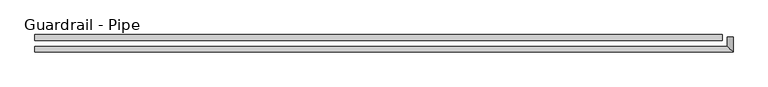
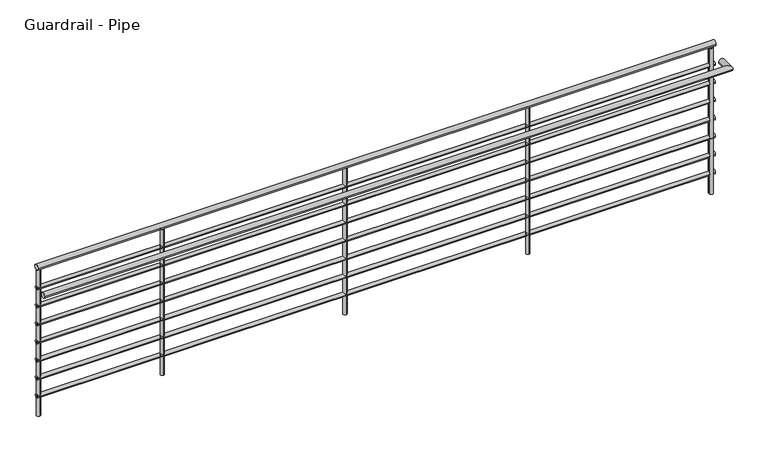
"""IFC4 building model written with IfcOpenShell, lengths in millimetres: railing geometry, Guardrail - Pipe."""

from ifc_helpers import new_model, si_unit, point, frame, frame_2d, origin, place, context, project, spatial, circle_curve, ellipse_curve, trimmed, segment, composite_curve, outline, extrude, source, transform, mapped, element, save
from ifc_brep_helpers import plane_surface, cylinder_surface, advanced_brep


def guardrail_pipe_c0ca29c8(model_context):
    return source(origin(), model_context, "Body", "SolidModel", [
        advanced_brep(
        [(-1587.5862718, 28918.0713154, 4705.35), (-1587.5862718, 28956.1713154, 4705.35), (-6108.7862718, 28918.0713154, 4705.35), (-6108.7862718, 28956.1713154, 4705.35)],
        [
            (0, 1, circle_curve(frame((-1587.5862718, 28937.1213154, 4705.35), z_axis=(1.0, 0.0, 0.0), x_axis=(0.0, 1.0, 0.0)), 19.05)),
            (1, 0, circle_curve(frame((-1587.5862718, 28937.1213154, 4705.35), z_axis=(1.0, 0.0, 0.0), x_axis=(0.0, 1.0, 0.0)), 19.05)),
            (2, 3, circle_curve(frame((-6108.7862718, 28937.1213154, 4705.35), z_axis=(-1.0, 0.0, 0.0), x_axis=(0.0, 1.0, 0.0)), 19.05)),
            (3, 2, circle_curve(frame((-6108.7862718, 28937.1213154, 4705.35), z_axis=(-1.0, 0.0, 0.0), x_axis=(0.0, 1.0, 0.0)), 19.05)),
            (0, 2),
            (3, 1),
        ],
        [
            plane_surface(frame((-1587.5862718, 28937.1213154, 4724.4), z_axis=(1.0, 0.0, 0.0), x_axis=(0.0, -1.0, 0.0))),
            plane_surface(frame((-6108.7862718, 28937.1213154, 4724.4), z_axis=(-1.0, 0.0, 0.0), x_axis=(0.0, -1.0, 0.0))),
            cylinder_surface(frame((-1587.5862718, 28937.1213154, 4705.35), z_axis=(1.0, 0.0, 0.0), x_axis=(0.0, 1.0, 0.0)), 19.05),
        ],
        [
            (0, [[1, 2]]),
            (1, [[3, 4]]),
            (2, [[-1, 5, -4, 6]]),
            (2, [[-2, -6, -3, -5]]),
        ],
    ),
        advanced_brep(
        [(-1587.5862718, 28924.4213154, 4559.3), (-1587.5862718, 28949.8213154, 4559.3), (-6108.7862718, 28924.4213154, 4559.3), (-6108.7862718, 28949.8213154, 4559.3)],
        [
            (0, 1, circle_curve(frame((-1587.5862718, 28937.1213154, 4559.3), z_axis=(1.0, 0.0, 0.0), x_axis=(0.0, 1.0, 0.0)), 12.7)),
            (1, 0, circle_curve(frame((-1587.5862718, 28937.1213154, 4559.3), z_axis=(1.0, 0.0, 0.0), x_axis=(0.0, 1.0, 0.0)), 12.7)),
            (2, 3, circle_curve(frame((-6108.7862718, 28937.1213154, 4559.3), z_axis=(-1.0, 0.0, 0.0), x_axis=(0.0, 1.0, 0.0)), 12.7)),
            (3, 2, circle_curve(frame((-6108.7862718, 28937.1213154, 4559.3), z_axis=(-1.0, 0.0, 0.0), x_axis=(0.0, 1.0, 0.0)), 12.7)),
            (0, 2),
            (3, 1),
        ],
        [
            plane_surface(frame((-1587.5862718, 28937.1213154, 4572.0), z_axis=(1.0, 0.0, 0.0), x_axis=(0.0, -1.0, 0.0))),
            plane_surface(frame((-6108.7862718, 28937.1213154, 4572.0), z_axis=(-1.0, 0.0, 0.0), x_axis=(0.0, -1.0, 0.0))),
            cylinder_surface(frame((-1587.5862718, 28937.1213154, 4559.3), z_axis=(1.0, 0.0, 0.0), x_axis=(0.0, 1.0, 0.0)), 12.7),
        ],
        [
            (0, [[1, 2]]),
            (1, [[3, 4]]),
            (2, [[-1, 5, -4, 6]]),
            (2, [[-2, -6, -3, -5]]),
        ],
    ),
        advanced_brep(
        [(-1517.7362718, 28942.3977925, 4552.95), (-1555.8362718, 28942.3977925, 4552.95), (-1517.7362718, 28841.8713154, 4552.95), (-1555.8362718, 28879.9713154, 4552.95), (-6108.7862718, 28841.8713154, 4552.95), (-6108.7862718, 28879.9713154, 4552.95)],
        [
            (0, 1, circle_curve(frame((-1536.7862718, 28942.3977925, 4552.95), z_axis=(0.0, 1.0, 0.0), x_axis=(-1.0, 0.0, 0.0)), 19.05)),
            (1, 0, circle_curve(frame((-1536.7862718, 28942.3977925, 4552.95), z_axis=(0.0, 1.0, 0.0), x_axis=(-1.0, 0.0, 0.0)), 19.05)),
            (0, 2),
            (2, 3, ellipse_curve(frame((-1536.7862718, 28860.9213154, 4552.95), z_axis=(0.7071067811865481, 0.7071067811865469, 0.0), x_axis=(-0.7071067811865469, 0.7071067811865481, 0.0)), 26.9407684, 19.05)),
            (3, 1),
            (3, 2, ellipse_curve(frame((-1536.7862718, 28860.9213154, 4552.95), z_axis=(0.7071067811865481, 0.7071067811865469, 0.0), x_axis=(-0.7071067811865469, 0.7071067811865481, 0.0)), 26.9407684, 19.05)),
            (4, 5, circle_curve(frame((-6108.7862718, 28860.9213154, 4552.95), z_axis=(-1.0, 0.0, 0.0), x_axis=(0.0, 1.0, 0.0)), 19.05)),
            (5, 4, circle_curve(frame((-6108.7862718, 28860.9213154, 4552.95), z_axis=(-1.0, 0.0, 0.0), x_axis=(0.0, 1.0, 0.0)), 19.05)),
            (2, 4),
            (5, 3),
        ],
        [
            plane_surface(frame((-1536.7862718, 28942.3977925, 4572.0), z_axis=(0.0, 1.0, 0.0), x_axis=(0.0, 0.0, -1.0))),
            cylinder_surface(frame((-1536.7862718, 28942.3977925, 4552.95), z_axis=(0.0, 1.0, 0.0), x_axis=(-1.0, 0.0, 0.0)), 19.05),
            plane_surface(frame((-6108.7862718, 28860.9213154, 4572.0), z_axis=(-1.0, 0.0, 0.0), x_axis=(0.0, -1.0, 0.0))),
            cylinder_surface(frame((-1536.7862718, 28860.9213154, 4552.95), z_axis=(1.0, 0.0, 0.0), x_axis=(0.0, 1.0, 0.0)), 19.05),
        ],
        [
            (0, [[1, 2]]),
            (1, [[-1, 3, 4, 5]]),
            (1, [[-2, -5, 6, -3]]),
            (2, [[7, 8]]),
            (3, [[-4, 9, -8, 10]]),
            (3, [[-6, -10, -7, -9]]),
        ],
    ),
        advanced_brep(
        [(-1587.5862718, 28924.4213154, 4432.3), (-1587.5862718, 28949.8213154, 4432.3), (-6108.7862718, 28924.4213154, 4432.3), (-6108.7862718, 28949.8213154, 4432.3)],
        [
            (0, 1, circle_curve(frame((-1587.5862718, 28937.1213154, 4432.3), z_axis=(1.0, 0.0, 0.0), x_axis=(0.0, 1.0, 0.0)), 12.7)),
            (1, 0, circle_curve(frame((-1587.5862718, 28937.1213154, 4432.3), z_axis=(1.0, 0.0, 0.0), x_axis=(0.0, 1.0, 0.0)), 12.7)),
            (2, 3, circle_curve(frame((-6108.7862718, 28937.1213154, 4432.3), z_axis=(-1.0, 0.0, 0.0), x_axis=(0.0, 1.0, 0.0)), 12.7)),
            (3, 2, circle_curve(frame((-6108.7862718, 28937.1213154, 4432.3), z_axis=(-1.0, 0.0, 0.0), x_axis=(0.0, 1.0, 0.0)), 12.7)),
            (0, 2),
            (3, 1),
        ],
        [
            plane_surface(frame((-1587.5862718, 28937.1213154, 4445.0), z_axis=(1.0, 0.0, 0.0), x_axis=(0.0, -1.0, 0.0))),
            plane_surface(frame((-6108.7862718, 28937.1213154, 4445.0), z_axis=(-1.0, 0.0, 0.0), x_axis=(0.0, -1.0, 0.0))),
            cylinder_surface(frame((-1587.5862718, 28937.1213154, 4432.3), z_axis=(1.0, 0.0, 0.0), x_axis=(0.0, 1.0, 0.0)), 12.7),
        ],
        [
            (0, [[1, 2]]),
            (1, [[3, 4]]),
            (2, [[-1, 5, -4, 6]]),
            (2, [[-2, -6, -3, -5]]),
        ],
    ),
        advanced_brep(
        [(-1587.5862718, 28924.4213154, 4305.3), (-1587.5862718, 28949.8213154, 4305.3), (-6108.7862718, 28924.4213154, 4305.3), (-6108.7862718, 28949.8213154, 4305.3)],
        [
            (0, 1, circle_curve(frame((-1587.5862718, 28937.1213154, 4305.3), z_axis=(1.0, 0.0, 0.0), x_axis=(0.0, 1.0, 0.0)), 12.7)),
            (1, 0, circle_curve(frame((-1587.5862718, 28937.1213154, 4305.3), z_axis=(1.0, 0.0, 0.0), x_axis=(0.0, 1.0, 0.0)), 12.7)),
            (2, 3, circle_curve(frame((-6108.7862718, 28937.1213154, 4305.3), z_axis=(-1.0, 0.0, 0.0), x_axis=(0.0, 1.0, 0.0)), 12.7)),
            (3, 2, circle_curve(frame((-6108.7862718, 28937.1213154, 4305.3), z_axis=(-1.0, 0.0, 0.0), x_axis=(0.0, 1.0, 0.0)), 12.7)),
            (0, 2),
            (3, 1),
        ],
        [
            plane_surface(frame((-1587.5862718, 28937.1213154, 4318.0), z_axis=(1.0, 0.0, 0.0), x_axis=(0.0, -1.0, 0.0))),
            plane_surface(frame((-6108.7862718, 28937.1213154, 4318.0), z_axis=(-1.0, 0.0, 0.0), x_axis=(0.0, -1.0, 0.0))),
            cylinder_surface(frame((-1587.5862718, 28937.1213154, 4305.3), z_axis=(1.0, 0.0, 0.0), x_axis=(0.0, 1.0, 0.0)), 12.7),
        ],
        [
            (0, [[1, 2]]),
            (1, [[3, 4]]),
            (2, [[-1, 5, -4, 6]]),
            (2, [[-2, -6, -3, -5]]),
        ],
    ),
        advanced_brep(
        [(-1587.5862718, 28924.4213154, 4178.3), (-1587.5862718, 28949.8213154, 4178.3), (-6108.7862718, 28924.4213154, 4178.3), (-6108.7862718, 28949.8213154, 4178.3)],
        [
            (0, 1, circle_curve(frame((-1587.5862718, 28937.1213154, 4178.3), z_axis=(1.0, 0.0, 0.0), x_axis=(0.0, 1.0, 0.0)), 12.7)),
            (1, 0, circle_curve(frame((-1587.5862718, 28937.1213154, 4178.3), z_axis=(1.0, 0.0, 0.0), x_axis=(0.0, 1.0, 0.0)), 12.7)),
            (2, 3, circle_curve(frame((-6108.7862718, 28937.1213154, 4178.3), z_axis=(-1.0, 0.0, 0.0), x_axis=(0.0, 1.0, 0.0)), 12.7)),
            (3, 2, circle_curve(frame((-6108.7862718, 28937.1213154, 4178.3), z_axis=(-1.0, 0.0, 0.0), x_axis=(0.0, 1.0, 0.0)), 12.7)),
            (0, 2),
            (3, 1),
        ],
        [
            plane_surface(frame((-1587.5862718, 28937.1213154, 4191.0), z_axis=(1.0, 0.0, 0.0), x_axis=(0.0, -1.0, 0.0))),
            plane_surface(frame((-6108.7862718, 28937.1213154, 4191.0), z_axis=(-1.0, 0.0, 0.0), x_axis=(0.0, -1.0, 0.0))),
            cylinder_surface(frame((-1587.5862718, 28937.1213154, 4178.3), z_axis=(1.0, 0.0, 0.0), x_axis=(0.0, 1.0, 0.0)), 12.7),
        ],
        [
            (0, [[1, 2]]),
            (1, [[3, 4]]),
            (2, [[-1, 5, -4, 6]]),
            (2, [[-2, -6, -3, -5]]),
        ],
    ),
        advanced_brep(
        [(-1587.5862718, 28924.4213154, 4051.3), (-1587.5862718, 28949.8213154, 4051.3), (-6108.7862718, 28924.4213154, 4051.3), (-6108.7862718, 28949.8213154, 4051.3)],
        [
            (0, 1, circle_curve(frame((-1587.5862718, 28937.1213154, 4051.3), z_axis=(1.0, 0.0, 0.0), x_axis=(0.0, 1.0, 0.0)), 12.7)),
            (1, 0, circle_curve(frame((-1587.5862718, 28937.1213154, 4051.3), z_axis=(1.0, 0.0, 0.0), x_axis=(0.0, 1.0, 0.0)), 12.7)),
            (2, 3, circle_curve(frame((-6108.7862718, 28937.1213154, 4051.3), z_axis=(-1.0, 0.0, 0.0), x_axis=(0.0, 1.0, 0.0)), 12.7)),
            (3, 2, circle_curve(frame((-6108.7862718, 28937.1213154, 4051.3), z_axis=(-1.0, 0.0, 0.0), x_axis=(0.0, 1.0, 0.0)), 12.7)),
            (0, 2),
            (3, 1),
        ],
        [
            plane_surface(frame((-1587.5862718, 28937.1213154, 4064.0), z_axis=(1.0, 0.0, 0.0), x_axis=(0.0, -1.0, 0.0))),
            plane_surface(frame((-6108.7862718, 28937.1213154, 4064.0), z_axis=(-1.0, 0.0, 0.0), x_axis=(0.0, -1.0, 0.0))),
            cylinder_surface(frame((-1587.5862718, 28937.1213154, 4051.3), z_axis=(1.0, 0.0, 0.0), x_axis=(0.0, 1.0, 0.0)), 12.7),
        ],
        [
            (0, [[1, 2]]),
            (1, [[3, 4]]),
            (2, [[-1, 5, -4, 6]]),
            (2, [[-2, -6, -3, -5]]),
        ],
    ),
        advanced_brep(
        [(-1587.5862718, 28924.4213154, 3924.3), (-1587.5862718, 28949.8213154, 3924.3), (-6108.7862718, 28924.4213154, 3924.3), (-6108.7862718, 28949.8213154, 3924.3)],
        [
            (0, 1, circle_curve(frame((-1587.5862718, 28937.1213154, 3924.3), z_axis=(1.0, 0.0, 0.0), x_axis=(0.0, 1.0, 0.0)), 12.7)),
            (1, 0, circle_curve(frame((-1587.5862718, 28937.1213154, 3924.3), z_axis=(1.0, 0.0, 0.0), x_axis=(0.0, 1.0, 0.0)), 12.7)),
            (2, 3, circle_curve(frame((-6108.7862718, 28937.1213154, 3924.3), z_axis=(-1.0, 0.0, 0.0), x_axis=(0.0, 1.0, 0.0)), 12.7)),
            (3, 2, circle_curve(frame((-6108.7862718, 28937.1213154, 3924.3), z_axis=(-1.0, 0.0, 0.0), x_axis=(0.0, 1.0, 0.0)), 12.7)),
            (0, 2),
            (3, 1),
        ],
        [
            plane_surface(frame((-1587.5862718, 28937.1213154, 3937.0), z_axis=(1.0, 0.0, 0.0), x_axis=(0.0, -1.0, 0.0))),
            plane_surface(frame((-6108.7862718, 28937.1213154, 3937.0), z_axis=(-1.0, 0.0, 0.0), x_axis=(0.0, -1.0, 0.0))),
            cylinder_surface(frame((-1587.5862718, 28937.1213154, 3924.3), z_axis=(1.0, 0.0, 0.0), x_axis=(0.0, 1.0, 0.0)), 12.7),
        ],
        [
            (0, [[1, 2]]),
            (1, [[3, 4]]),
            (2, [[-1, 5, -4, 6]]),
            (2, [[-2, -6, -3, -5]]),
        ],
    ),
        advanced_brep(
        [(-1587.5862718, 28924.4213154, 3797.3), (-1587.5862718, 28949.8213154, 3797.3), (-6108.7862718, 28924.4213154, 3797.3), (-6108.7862718, 28949.8213154, 3797.3)],
        [
            (0, 1, circle_curve(frame((-1587.5862718, 28937.1213154, 3797.3), z_axis=(1.0, 0.0, 0.0), x_axis=(0.0, 1.0, 0.0)), 12.7)),
            (1, 0, circle_curve(frame((-1587.5862718, 28937.1213154, 3797.3), z_axis=(1.0, 0.0, 0.0), x_axis=(0.0, 1.0, 0.0)), 12.7)),
            (2, 3, circle_curve(frame((-6108.7862718, 28937.1213154, 3797.3), z_axis=(-1.0, 0.0, 0.0), x_axis=(0.0, 1.0, 0.0)), 12.7)),
            (3, 2, circle_curve(frame((-6108.7862718, 28937.1213154, 3797.3), z_axis=(-1.0, 0.0, 0.0), x_axis=(0.0, 1.0, 0.0)), 12.7)),
            (0, 2),
            (3, 1),
        ],
        [
            plane_surface(frame((-1587.5862718, 28937.1213154, 3810.0), z_axis=(1.0, 0.0, 0.0), x_axis=(0.0, -1.0, 0.0))),
            plane_surface(frame((-6108.7862718, 28937.1213154, 3810.0), z_axis=(-1.0, 0.0, 0.0), x_axis=(0.0, -1.0, 0.0))),
            cylinder_surface(frame((-1587.5862718, 28937.1213154, 3797.3), z_axis=(1.0, 0.0, 0.0), x_axis=(0.0, 1.0, 0.0)), 12.7),
        ],
        [
            (0, [[1, 2]]),
            (1, [[3, 4]]),
            (2, [[-1, 5, -4, 6]]),
            (2, [[-2, -6, -3, -5]]),
        ],
    ),
        extrude(outline(composite_curve([segment(trimmed(circle_curve(frame_2d((-5270.5862718, 28937.1213154)), 12.7), [point((-5270.5862718, 28924.4213154))], [point((-5270.5862718, 28949.8213154))], False, "CARTESIAN"), True, "CONTINUOUS"), segment(trimmed(circle_curve(frame_2d((-5270.5862718, 28937.1213154)), 12.7), [point((-5270.5862718, 28949.8213154))], [point((-5270.5862718, 28924.4213154))], False, "CARTESIAN"), True, "CONTINUOUS")], self_intersect=False)), frame((0.0, 0.0, 3657.6), z_axis=(0.0, 0.0, 1.0), x_axis=(1.0, 0.0, 0.0)), (0.0, 0.0, 1.0), 1028.7),
        extrude(outline(composite_curve([segment(trimmed(circle_curve(frame_2d((-4051.3862718, 28937.1213154)), 12.7), [point((-4051.3862718, 28924.4213154))], [point((-4051.3862718, 28949.8213154))], False, "CARTESIAN"), True, "CONTINUOUS"), segment(trimmed(circle_curve(frame_2d((-4051.3862718, 28937.1213154)), 12.7), [point((-4051.3862718, 28949.8213154))], [point((-4051.3862718, 28924.4213154))], False, "CARTESIAN"), True, "CONTINUOUS")], self_intersect=False)), frame((0.0, 0.0, 3657.6), z_axis=(0.0, 0.0, 1.0), x_axis=(1.0, 0.0, 0.0)), (0.0, 0.0, 1.0), 1028.7),
        extrude(outline(composite_curve([segment(trimmed(circle_curve(frame_2d((-2832.1862718, 28937.1213154)), 12.7), [point((-2832.1862718, 28924.4213154))], [point((-2832.1862718, 28949.8213154))], False, "CARTESIAN"), True, "CONTINUOUS"), segment(trimmed(circle_curve(frame_2d((-2832.1862718, 28937.1213154)), 12.7), [point((-2832.1862718, 28949.8213154))], [point((-2832.1862718, 28924.4213154))], False, "CARTESIAN"), True, "CONTINUOUS")], self_intersect=False)), frame((0.0, 0.0, 3657.6), z_axis=(0.0, 0.0, 1.0), x_axis=(1.0, 0.0, 0.0)), (0.0, 0.0, 1.0), 1028.7),
        extrude(outline(composite_curve([segment(trimmed(circle_curve(frame_2d((-1612.9862718, 28937.1213154)), 12.7), [point((-1600.2862718, 28937.1213154))], [point((-1625.6862718, 28937.1213154))], False, "CARTESIAN"), True, "CONTINUOUS"), segment(trimmed(circle_curve(frame_2d((-1612.9862718, 28937.1213154)), 12.7), [point((-1625.6862718, 28937.1213154))], [point((-1600.2862718, 28937.1213154))], False, "CARTESIAN"), True, "CONTINUOUS")], self_intersect=False)), frame((0.0, 0.0, 3657.6), z_axis=(0.0, 0.0, 1.0), x_axis=(1.0, 0.0, 0.0)), (0.0, 0.0, 1.0), 1028.7),
        extrude(outline(composite_curve([segment(trimmed(circle_curve(frame_2d((-6096.0862718, 28937.1213154)), 12.7), [point((-6096.0862718, 28924.4213154))], [point((-6096.0862718, 28949.8213154))], False, "CARTESIAN"), True, "CONTINUOUS"), segment(trimmed(circle_curve(frame_2d((-6096.0862718, 28937.1213154)), 12.7), [point((-6096.0862718, 28949.8213154))], [point((-6096.0862718, 28924.4213154))], False, "CARTESIAN"), True, "CONTINUOUS")], self_intersect=False)), frame((0.0, 0.0, 3657.6), z_axis=(0.0, 0.0, 1.0), x_axis=(1.0, 0.0, 0.0)), (0.0, 0.0, 1.0), 1028.7),
        extrude(outline(composite_curve([segment(trimmed(circle_curve(frame_2d((-1612.9862718, 28929.6977925)), 12.7), [point((-1600.2862718, 28929.6977925))], [point((-1625.6862718, 28929.6977925))], False, "CARTESIAN"), True, "CONTINUOUS"), segment(trimmed(circle_curve(frame_2d((-1612.9862718, 28929.6977925)), 12.7), [point((-1625.6862718, 28929.6977925))], [point((-1600.2862718, 28929.6977925))], False, "CARTESIAN"), True, "CONTINUOUS")], self_intersect=False)), frame((0.0, 0.0, 3657.6), z_axis=(0.0, 0.0, 1.0), x_axis=(1.0, 0.0, 0.0)), (0.0, 0.0, 1.0), 1028.7),
    ])


if __name__ == "__main__":
    model = new_model("IFC4")
    model_context = context("Model", 3, world=origin())
    ifc_project = project(units=[si_unit("LENGTHUNIT", "METRE", prefix="MILLI")], contexts=[model_context])
    site = spatial("IfcSite", under=ifc_project)
    building = spatial("IfcBuilding", under=site)
    placement = place(None, origin())
    guardrail_pipe_shape = guardrail_pipe_c0ca29c8(model_context)
    element("IfcRailing", 1, ObjectType="Guardrail - Pipe", at=placement, inside=building, context=model_context, shape_type="MappedRepresentation", body=[
        mapped(guardrail_pipe_shape, transform((0.0, 0.0, 0.0), x_axis=(1.0, 0.0, 0.0), y_axis=(0.0, 1.0, 0.0), z_axis=(0.0, 0.0, 1.0))),
    ])
    save(model, "model.ifc")
